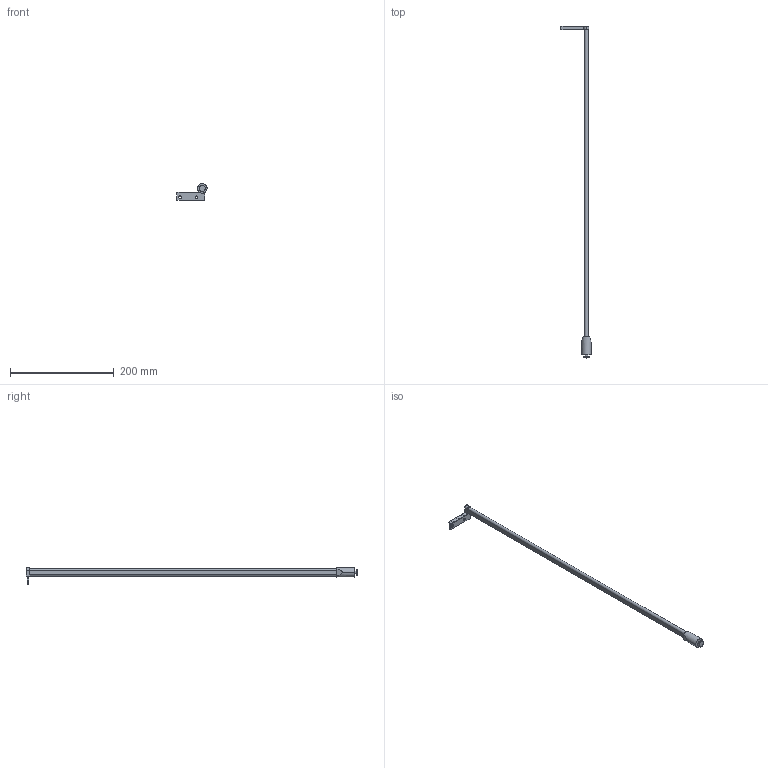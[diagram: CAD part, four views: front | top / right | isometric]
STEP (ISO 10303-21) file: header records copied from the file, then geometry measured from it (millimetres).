
FILE_DESCRIPTION (( 'STEP AP214' ), '1' );
FILE_NAME ('DWD-XP_Reling-Haengeregister_NL650_rechts.step', '2010-10-06T11:19:38', ( 'grass' ), ( '' ), 'SwSTEP 2.0', 'SolidWorks 2010', '' );
FILE_SCHEMA (( 'AUTOMOTIVE_DESIGN' ));
Length unit declared in the file: millimetre
Products named in the file (1): DWD-XP_Reling-Haengeregister_NL650_rechts
Bounding box: 58.1 x 640.3 x 32.15 mm (x, y, z)
Volume: 69118.2 mm3; surface area: 28180.2 mm2
Topology: 1 solids, 1 shells, 34 faces, 84 edges, 56 vertices
Faces by surface type: plane 20, cylinder 14
Entity records: 1058 total; most frequent: CARTESIAN_POINT 187, DIRECTION 178, ORIENTED_EDGE 168, EDGE_CURVE 84, AXIS2_PLACEMENT_3D 63, VERTEX_POINT 56, LINE 52, VECTOR 52
